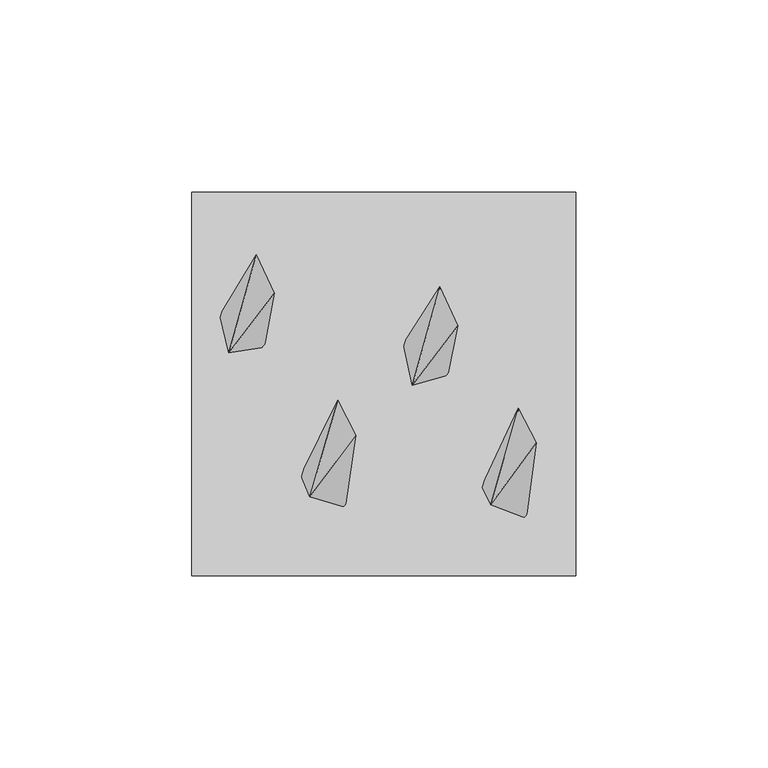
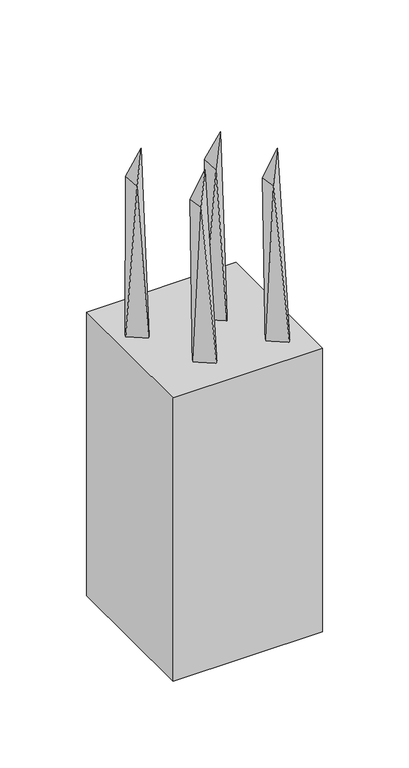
"""IFC4 building model written with IfcOpenShell, lengths in millimetres: geographic element geometry, Enscape AssetDefinition - Kitchen Tool 016 Knife Block : Enscape AssetDefinition - Kitchen Tool 016 Knife Block."""

from ifc_helpers import new_model, si_unit, origin, place, context, project, spatial, triangles, source, transform, mapped, element, save


def geographic_element_66572eef(model_context):
    return source(origin(), model_context, "Body", "Tessellation", [
        triangles([(-50.0000004, 50.0000004, 0.0), (-50.0000004, 50.0000004, 200.0000015), (50.0000004, 50.0000004, 0.0), (50.0000004, 50.0000004, 200.0000015), (50.0000004, -50.0000004, 200.0000015), (50.0000004, -50.0000004, 0.0), (-50.0000004, -50.0000004, 0.0), (-50.0000004, -50.0000004, 200.0000015), (-33.2339998, 33.6340003, 299.8780076), (-28.5509985, 23.6259993, 324.032002), (-30.697999, 25.6360011, 192.4050073), (-40.4129993, 8.098, 310.8130051), (-31.1699997, 9.6170002, 192.7609993), (-42.7559976, 17.9450007, 193.7309983), (-12.0760003, -4.2690001, 299.3420119), (-21.5989996, -23.8109989, 193.8360064), (-19.255999, -29.3900007, 311.1989917), (-10.0120002, -32.1680015, 193.1700042), (-9.5409999, -16.1729999, 192.230999), (-7.3930001, -13.3899996, 323.8439684), (5.071, 10.5320004, 193.7180085), (14.5930001, 25.3209994, 299.9939888), (17.1280004, 18.2340001, 192.4570026), (16.6570002, 2.2130001, 192.677011), (7.4129997, -0.307, 310.7119938), (19.2760014, 15.1090001, 324.0619783), (25.5169994, -26.6149997, 193.8630033), (27.86, -31.4209973, 311.2599981), (35.0389995, -6.3780003, 299.238003), (37.574998, -18.988, 192.2079989), (37.1030019, -34.9770007, 193.2519941), (39.7219986, -15.3390006, 323.8000031)], [[31, 29, 32], [29, 31, 30], [28, 32, 29], [28, 31, 32], [27, 31, 28], [31, 27, 30], [27, 29, 30], [27, 28, 29], [24, 22, 26], [22, 24, 23], [25, 26, 22], [25, 24, 26], [21, 24, 25], [24, 21, 23], [21, 22, 23], [21, 25, 22], [18, 15, 20], [15, 18, 19], [17, 20, 15], [17, 18, 20], [16, 18, 17], [18, 16, 19], [16, 15, 19], [16, 17, 15], [14, 13, 12], [13, 14, 11], [12, 13, 10], [12, 10, 9], [14, 9, 11], [13, 9, 10], [14, 12, 9], [9, 13, 11], [2, 8, 5], [3, 6, 7], [5, 8, 7], [4, 5, 6], [2, 4, 3], [8, 2, 1], [2, 5, 4], [3, 7, 1], [5, 7, 6], [4, 6, 3], [2, 3, 1], [8, 1, 7]]),
    ])


if __name__ == "__main__":
    model = new_model("IFC4")
    model_context = context("Model", 3, world=origin())
    ifc_project = project(units=[si_unit("LENGTHUNIT", "METRE", prefix="MILLI")], contexts=[model_context])
    site = spatial("IfcSite", under=ifc_project)
    building = spatial("IfcBuilding", under=site)
    placement = place(None, origin())
    geographic_element_shape = geographic_element_66572eef(model_context)
    element("IfcGeographicElement", 1, ObjectType="Enscape AssetDefinition - Kitchen Tool 016 Knife Block : Enscape AssetDefinition - Kitchen Tool 016 Knife Block", at=placement, inside=building, context=model_context, shape_type="MappedRepresentation", body=[
        mapped(geographic_element_shape, transform((0.0, 0.0, 0.0), x_axis=(1.0, 0.0, 0.0), y_axis=(0.0, 1.0, 0.0), z_axis=(0.0, 0.0, 1.0))),
    ])
    save(model, "model.ifc")
